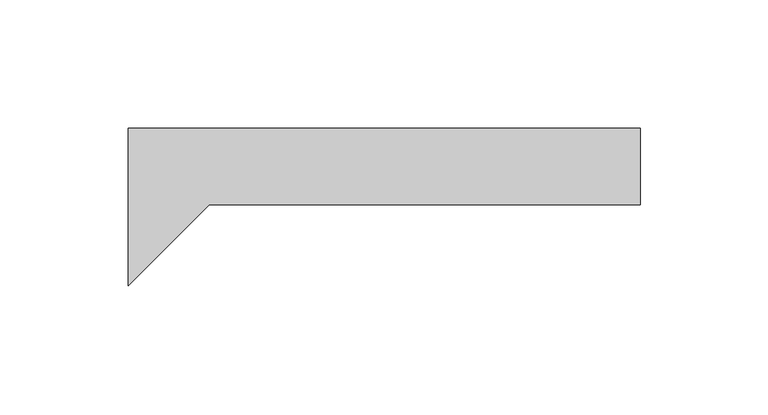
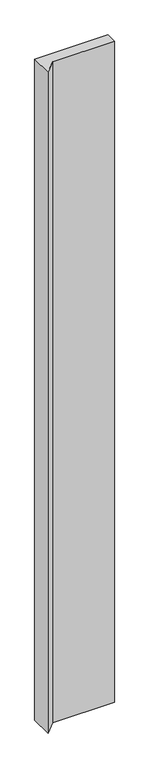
"""IFC4 building model written with IfcOpenShell, lengths in millimetres: plate geometry, ATELIERS 3S_EPURE CDB 200_VERTICAL : AZURO."""

from ifc_helpers import new_model, si_unit, origin, origin_with_axes, place, context, project, spatial, polyline, outline, extrude, source, transform, mapped, element, save


def plate_cea70d1d(model_context):
    return source(origin(), model_context, "Body", "SweptSolid", [
        extrude(outline(polyline([(100.0000002, -29.9980469), (-68.2928847, -29.9980469), (-99.9999998, -61.705162), (-99.9999998, 0.0), (100.0000002, 0.0), (100.0000002, -29.9980469)])), origin_with_axes(), (0.0, 0.0, 1.0), 1900.0),
    ])


if __name__ == "__main__":
    model = new_model("IFC4")
    model_context = context("Model", 3, world=origin())
    ifc_project = project(units=[si_unit("LENGTHUNIT", "METRE", prefix="MILLI")], contexts=[model_context])
    site = spatial("IfcSite", under=ifc_project)
    building = spatial("IfcBuilding", under=site)
    placement = place(None, origin())
    plate_shape = plate_cea70d1d(model_context)
    element("IfcPlate", 1, ObjectType="ATELIERS 3S_EPURE CDB 200_VERTICAL : AZURO", at=placement, inside=building, context=model_context, shape_type="MappedRepresentation", body=[
        mapped(plate_shape, transform((0.0, 0.0, 0.0), x_axis=(1.0, 0.0, 0.0), y_axis=(0.0, 1.0, 0.0), z_axis=(0.0, 0.0, 1.0))),
    ])
    save(model, "model.ifc")
